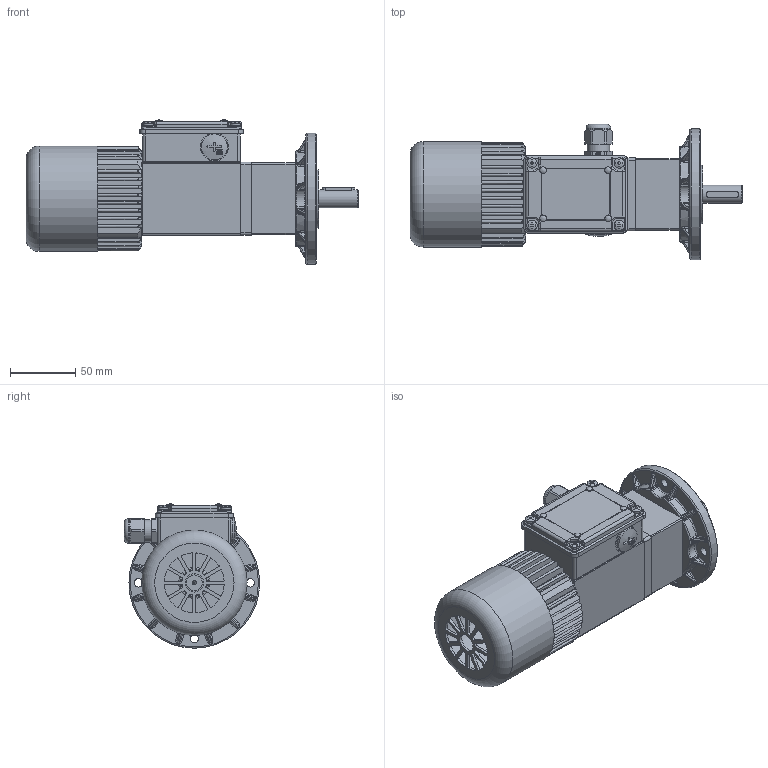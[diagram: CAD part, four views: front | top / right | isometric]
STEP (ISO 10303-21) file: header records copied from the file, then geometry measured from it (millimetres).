
FILE_DESCRIPTION(/* description */ (''),/* implementation_level */ '2;1');
FILE_NAME(/* name */ 'C:\Users\giuseppe.caruso.MINIMOTOR\Desktop\ACE...B5.stp',/* time_stamp */ '2014-12-16T15:47:31+01:00',/* author */ ('giuseppe.caruso'),/* organization */ (''),/* preprocessor_version */ 'ST-DEVELOPER v15.6',/* originating_system */ 'Autodesk Inventor 2015',/* authorisation */ '');
FILE_SCHEMA (('CONFIG_CONTROL_DESIGN'));
Length unit declared in the file: millimetre
Products named in the file (26): VCE455; RIV014I; VTC410S; VTC406; RST004; VTC306; BOC001; TPP001; SRD040; CPR042; SPN002; RAD040A; CPV050; GRN012; CPB005A; TRG064; CPM005A; TRG001; GRN035; TPP009; SRD014; ALR063; CRT002; CHI005; FLG042; ACE 72T 122,1 B5
Assembly tree (37 placements, depth 2):
  ACE 72T 122,1 B5
    VCE455  x4
    RIV014I  x4
    VTC410S  x4
    VTC406
    RST004
    VTC306  x4
    BOC001
    TPP001
    SRD040
    CPR042
    SPN002
    RAD040A
    CPV050
    GRN012
    CPB005A
    TRG064
    CPM005A
    TRG001
    GRN035
    TPP009
    SRD014
    ALR063
    CRT002
    CHI005
    FLG042
Bounding box: 255.1 x 104.05 x 110.92 mm (x, y, z)
Volume: 403793.7 mm3; surface area: 239914.4 mm2
Topology: 42 solids, 42 shells, 3909 faces, 10608 edges, 6786 vertices
Faces by surface type: cylinder 1699, plane 1549, cone 231, torus 228, sphere 106, bspline 96
Full cylindrical faces by diameter (mm): 2.459 x1, 2.6 x4, 2.621 x3, 2.7 x8, 2.729 x4, 3 x11, 3.242 x18, 3.25 x4, 3.3 x1, 3.4 x4, 3.8 x4, 4 x13, 4.134 x7, 4.3 x1, 4.5 x20, 5 x4, 5.1 x4, 5.3 x2, 6 x3, 6.5 x4, 6.561 x1, 6.9 x2, 7 x10, 7.5 x6, 7.6 x1, 8 x5, 9 x12, 10 x1, 11 x1, 12 x1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
Entity records: 122727 total; most frequent: CARTESIAN_POINT 34512, ORIENTED_EDGE 18872, DIRECTION 17293, EDGE_CURVE 9436, AXIS2_PLACEMENT_3D 6450, VERTEX_POINT 6252, LINE 4393, VECTOR 4393
